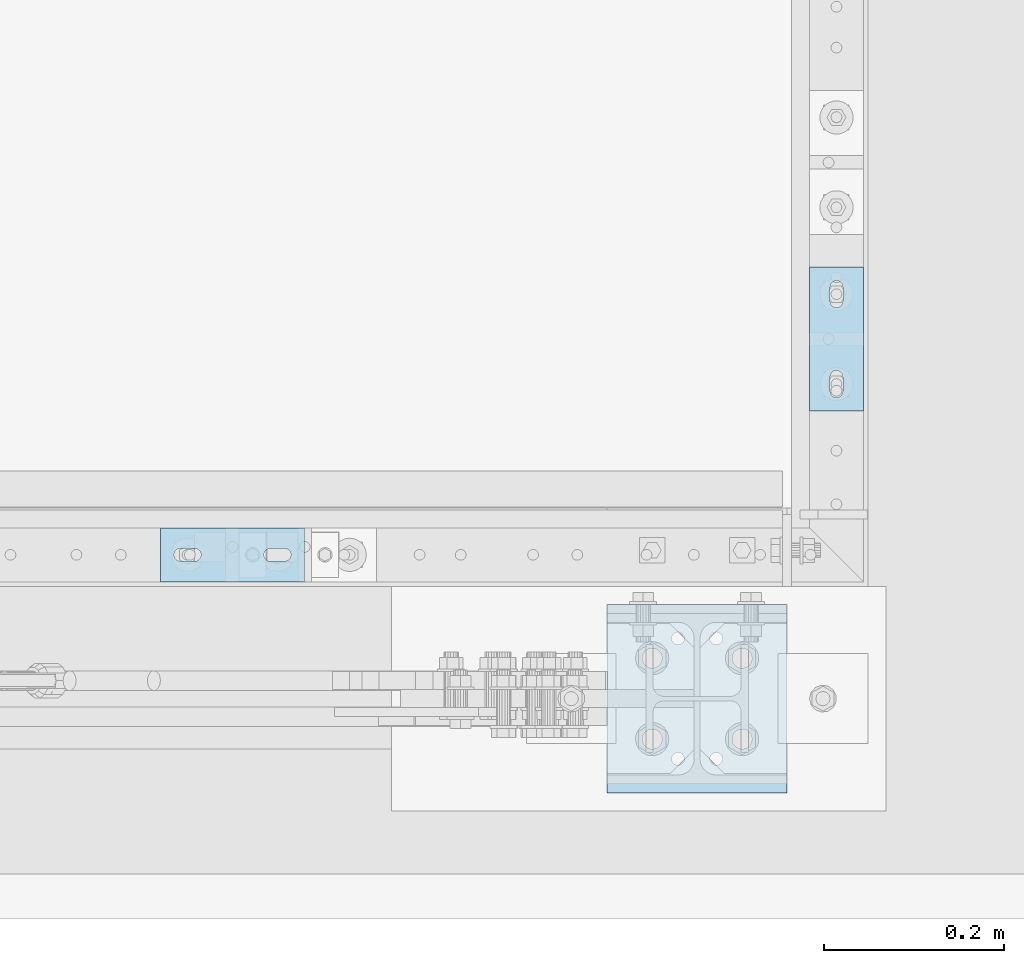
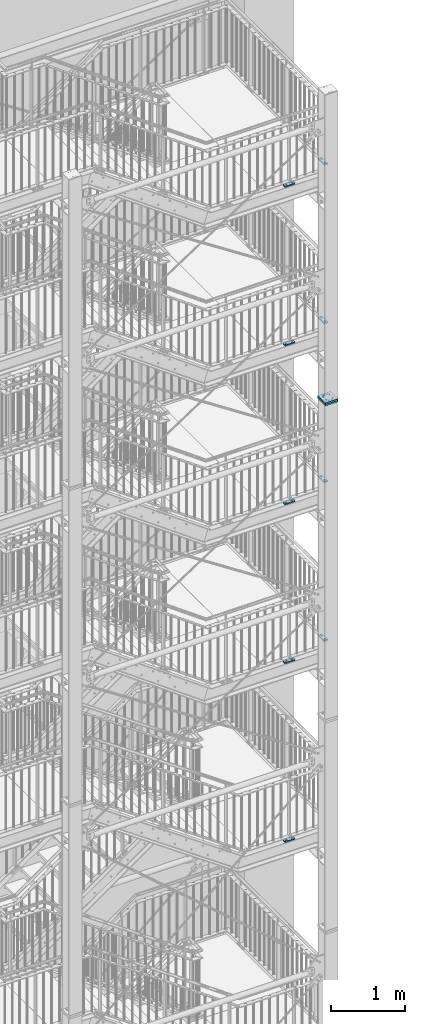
# One storey, part 196 of 825: 11 plates, 34 openings.
"""IFC2X3 building model written with IfcOpenShell, lengths in millimetres."""

from ifc_helpers import new_model, entity, si_unit, converted_unit, point, frame, frame_2d, origin, origin_with_axes, origin_2d_with_axis, place, context, project, spatial, polyline, circle_curve, line_curve, trimmed, segment, composite_curve, circle, outline, extrude, material, layer, layer_set, element, save


model = new_model("IFC2X3")

# Units and contexts
model_context = context("Model", 3, precision=1e-09, world=origin_with_axes())
ifc_project = project(units=[si_unit("LENGTHUNIT", "METRE", prefix="MILLI"), si_unit("AREAUNIT", "SQUARE_METRE"), si_unit("VOLUMEUNIT", "CUBIC_METRE"), converted_unit("PLANEANGLEUNIT", "DEGREE", entity("IfcPlaneAngleMeasure", 0.01745329), si_unit("PLANEANGLEUNIT", "RADIAN"), dimensions=[0, 0, 0, 0, 0, 0, 0])], contexts=[model_context])

# Site, building, storey
site_placement = place(None, origin_with_axes())
site = spatial("IfcSite", under=ifc_project, at=site_placement, Name="Cnopf'sche Kinderklinik", CompositionType="ELEMENT")
building_placement = place(site_placement, origin_with_axes())
building = spatial("IfcBuilding", under=site, at=building_placement, Name="Struktur 1", CompositionType="ELEMENT")
storey_placement = place(building_placement, origin_with_axes())
storey = spatial("IfcBuildingStorey", under=building, at=storey_placement, Name="Default Storey", CompositionType="ELEMENT", Elevation=0.0)

# Plate, openings
ifc_material = material(Name="S235JR")
ifc_layer_1 = layer(ifc_material, 20.0)
ifc_layer_set_1 = layer_set([ifc_layer_1], Name="S235JR")
plate_1_placement = place(None, frame((8269.792260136, 4496.736971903, 5674.8947367), z_axis=(0.0, 0.0, 1.0), x_axis=(1.0, 0.0, 0.0)))
plate_1 = element("IfcPlate", 1, at=plate_1_placement, inside=storey, material=ifc_layer_set_1, Name="Plate#508", ObjectType="Plate#508", context=model_context, shape_type="SweptSolid", body=[
    extrude(outline(polyline([(0.0, 0.0), (160.0, 0.0), (160.0, 60.0), (0.0, 60.0), (0.0, 0.0)])), origin_with_axes(), (0.0, 0.0, 1.0), 20.0),
])
opening_1_placement = place(plate_1_placement, frame((38.0, 37.001, 20.5), z_axis=(0.0, 0.0, 1.0), x_axis=(-1.0, 0.0, 0.0)))
element("IfcOpeningElement", 2, at=opening_1_placement, cuts=plate_1, ObjectType="Opening", context=model_context, shape_type="SweptSolid", body=[
    extrude(outline(composite_curve([segment(trimmed(line_curve((0.0, 0.0), (1.0, 0.0), 16.0), [point((0.0, 0.0))], [point((16.0, 0.0))], True, "CARTESIAN"), True, "CONTINUOUS"), segment(trimmed(circle_curve(frame_2d((16.0, 7.001), x_axis=(1.0, 0.0)), 7.001), [point((16.0, 0.0))], [point((16.0, 14.002))], True, "CARTESIAN"), True, "CONTINUOUS"), segment(trimmed(line_curve((16.0, 14.002), (-1.0, 0.0), 16.0), [point((16.0, 14.002))], [point((0.0, 14.002))], True, "CARTESIAN"), True, "CONTINUOUS"), segment(trimmed(circle_curve(frame_2d((0.0, 7.001), x_axis=(1.0, 0.0)), 7.001), [point((0.0, 14.002))], [point((0.0, 0.0))], True, "CARTESIAN"), True, "CONTINUOUS")], self_intersect=False)), origin(), (0.0, 0.0, -1.0), 21.0),
])
opening_2_placement = place(plate_1_placement, frame((138.0, 37.001, 20.5), z_axis=(0.0, 0.0, 1.0), x_axis=(-1.0, 0.0, 0.0)))
element("IfcOpeningElement", 3, at=opening_2_placement, cuts=plate_1, ObjectType="Opening", context=model_context, shape_type="SweptSolid", body=[
    extrude(outline(composite_curve([segment(trimmed(line_curve((0.0, 0.0), (1.0, 0.0), 16.0), [point((0.0, 0.0))], [point((16.0, 0.0))], True, "CARTESIAN"), True, "CONTINUOUS"), segment(trimmed(circle_curve(frame_2d((16.0, 7.001), x_axis=(1.0, 0.0)), 7.001), [point((16.0, 0.0))], [point((16.0, 14.002))], True, "CARTESIAN"), True, "CONTINUOUS"), segment(trimmed(line_curve((16.0, 14.002), (-1.0, 0.0), 16.0), [point((16.0, 14.002))], [point((0.0, 14.002))], True, "CARTESIAN"), True, "CONTINUOUS"), segment(trimmed(circle_curve(frame_2d((0.0, 7.001), x_axis=(1.0, 0.0)), 7.001), [point((0.0, 14.002))], [point((0.0, 0.0))], True, "CARTESIAN"), True, "CONTINUOUS")], self_intersect=False)), origin(), (0.0, 0.0, -1.0), 21.0),
])

plate_2_placement = place(None, frame((9051.713402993, 4686.735971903, 8636.0), z_axis=(0.0, 0.0, 1.0), x_axis=(0.0, 1.0, 0.0)))
plate_2 = element("IfcPlate", 4, at=plate_2_placement, inside=storey, material=ifc_layer_set_1, Name="Plate#507", ObjectType="Plate#507", context=model_context, shape_type="SweptSolid", body=[
    extrude(outline(polyline([(0.0, 0.0), (160.0, 0.0), (160.0, 60.0), (0.0, 60.0), (0.0, 0.0)])), origin_with_axes(), (0.0, 0.0, 1.0), 20.0),
])
opening_3_placement = place(plate_2_placement, frame((38.0, 37.001, 20.5), z_axis=(0.0, 0.0, 1.0), x_axis=(-1.0, 0.0, 0.0)))
element("IfcOpeningElement", 5, at=opening_3_placement, cuts=plate_2, ObjectType="Opening", context=model_context, shape_type="SweptSolid", body=[
    extrude(outline(composite_curve([segment(trimmed(line_curve((0.0, 0.0), (1.0, 0.0), 16.0), [point((0.0, 0.0))], [point((16.0, 0.0))], True, "CARTESIAN"), True, "CONTINUOUS"), segment(trimmed(circle_curve(frame_2d((16.0, 7.001), x_axis=(1.0, 0.0)), 7.001), [point((16.0, 0.0))], [point((16.0, 14.002))], True, "CARTESIAN"), True, "CONTINUOUS"), segment(trimmed(line_curve((16.0, 14.002), (-1.0, 0.0), 16.0), [point((16.0, 14.002))], [point((0.0, 14.002))], True, "CARTESIAN"), True, "CONTINUOUS"), segment(trimmed(circle_curve(frame_2d((0.0, 7.001), x_axis=(1.0, 0.0)), 7.001), [point((0.0, 14.002))], [point((0.0, 0.0))], True, "CARTESIAN"), True, "CONTINUOUS")], self_intersect=False)), origin(), (0.0, 0.0, -1.0), 21.0),
])
opening_4_placement = place(plate_2_placement, frame((138.0, 37.001, 20.5), z_axis=(0.0, 0.0, 1.0), x_axis=(-1.0, 0.0, 0.0)))
element("IfcOpeningElement", 6, at=opening_4_placement, cuts=plate_2, ObjectType="Opening", context=model_context, shape_type="SweptSolid", body=[
    extrude(outline(composite_curve([segment(trimmed(line_curve((0.0, 0.0), (1.0, 0.0), 16.0), [point((0.0, 0.0))], [point((16.0, 0.0))], True, "CARTESIAN"), True, "CONTINUOUS"), segment(trimmed(circle_curve(frame_2d((16.0, 7.001), x_axis=(1.0, 0.0)), 7.001), [point((16.0, 0.0))], [point((16.0, 14.002))], True, "CARTESIAN"), True, "CONTINUOUS"), segment(trimmed(line_curve((16.0, 14.002), (-1.0, 0.0), 16.0), [point((16.0, 14.002))], [point((0.0, 14.002))], True, "CARTESIAN"), True, "CONTINUOUS"), segment(trimmed(circle_curve(frame_2d((0.0, 7.001), x_axis=(1.0, 0.0)), 7.001), [point((0.0, 14.002))], [point((0.0, 0.0))], True, "CARTESIAN"), True, "CONTINUOUS")], self_intersect=False)), origin(), (0.0, 0.0, -1.0), 21.0),
])

plate_3_placement = place(None, frame((8269.792260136, 4496.736971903, 8636.0), z_axis=(0.0, 0.0, 1.0), x_axis=(1.0, 0.0, 0.0)))
plate_3 = element("IfcPlate", 7, at=plate_3_placement, inside=storey, material=ifc_layer_set_1, Name="Plate#508", ObjectType="Plate#508", context=model_context, shape_type="SweptSolid", body=[
    extrude(outline(polyline([(0.0, 0.0), (160.0, 0.0), (160.0, 60.0), (0.0, 60.0), (0.0, 0.0)])), origin_with_axes(), (0.0, 0.0, 1.0), 20.0),
])
opening_5_placement = place(plate_3_placement, frame((38.0, 37.001, 20.5), z_axis=(0.0, 0.0, 1.0), x_axis=(-1.0, 0.0, 0.0)))
element("IfcOpeningElement", 8, at=opening_5_placement, cuts=plate_3, ObjectType="Opening", context=model_context, shape_type="SweptSolid", body=[
    extrude(outline(composite_curve([segment(trimmed(line_curve((0.0, 0.0), (1.0, 0.0), 16.0), [point((0.0, 0.0))], [point((16.0, 0.0))], True, "CARTESIAN"), True, "CONTINUOUS"), segment(trimmed(circle_curve(frame_2d((16.0, 7.001), x_axis=(1.0, 0.0)), 7.001), [point((16.0, 0.0))], [point((16.0, 14.002))], True, "CARTESIAN"), True, "CONTINUOUS"), segment(trimmed(line_curve((16.0, 14.002), (-1.0, 0.0), 16.0), [point((16.0, 14.002))], [point((0.0, 14.002))], True, "CARTESIAN"), True, "CONTINUOUS"), segment(trimmed(circle_curve(frame_2d((0.0, 7.001), x_axis=(1.0, 0.0)), 7.001), [point((0.0, 14.002))], [point((0.0, 0.0))], True, "CARTESIAN"), True, "CONTINUOUS")], self_intersect=False)), origin(), (0.0, 0.0, -1.0), 21.0),
])
opening_6_placement = place(plate_3_placement, frame((138.0, 37.001, 20.5), z_axis=(0.0, 0.0, 1.0), x_axis=(-1.0, 0.0, 0.0)))
element("IfcOpeningElement", 9, at=opening_6_placement, cuts=plate_3, ObjectType="Opening", context=model_context, shape_type="SweptSolid", body=[
    extrude(outline(composite_curve([segment(trimmed(line_curve((0.0, 0.0), (1.0, 0.0), 16.0), [point((0.0, 0.0))], [point((16.0, 0.0))], True, "CARTESIAN"), True, "CONTINUOUS"), segment(trimmed(circle_curve(frame_2d((16.0, 7.001), x_axis=(1.0, 0.0)), 7.001), [point((16.0, 0.0))], [point((16.0, 14.002))], True, "CARTESIAN"), True, "CONTINUOUS"), segment(trimmed(line_curve((16.0, 14.002), (-1.0, 0.0), 16.0), [point((16.0, 14.002))], [point((0.0, 14.002))], True, "CARTESIAN"), True, "CONTINUOUS"), segment(trimmed(circle_curve(frame_2d((0.0, 7.001), x_axis=(1.0, 0.0)), 7.001), [point((0.0, 14.002))], [point((0.0, 0.0))], True, "CARTESIAN"), True, "CONTINUOUS")], self_intersect=False)), origin(), (0.0, 0.0, -1.0), 21.0),
])

plate_4_placement = place(None, frame((9051.713402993, 4686.735971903, 11265.5000003), z_axis=(0.0, 0.0, 1.0), x_axis=(0.0, 1.0, 0.0)))
plate_4 = element("IfcPlate", 10, at=plate_4_placement, inside=storey, material=ifc_layer_set_1, Name="Plate#507", ObjectType="Plate#507", context=model_context, shape_type="SweptSolid", body=[
    extrude(outline(polyline([(0.0, 0.0), (160.0, 0.0), (160.0, 60.0), (0.0, 60.0), (0.0, 0.0)])), origin_with_axes(), (0.0, 0.0, 1.0), 20.0),
])
opening_7_placement = place(plate_4_placement, frame((38.0, 37.001, 20.5), z_axis=(0.0, 0.0, 1.0), x_axis=(-1.0, 0.0, 0.0)))
element("IfcOpeningElement", 11, at=opening_7_placement, cuts=plate_4, ObjectType="Opening", context=model_context, shape_type="SweptSolid", body=[
    extrude(outline(composite_curve([segment(trimmed(line_curve((0.0, 0.0), (1.0, 0.0), 16.0), [point((0.0, 0.0))], [point((16.0, 0.0))], True, "CARTESIAN"), True, "CONTINUOUS"), segment(trimmed(circle_curve(frame_2d((16.0, 7.001), x_axis=(1.0, 0.0)), 7.001), [point((16.0, 0.0))], [point((16.0, 14.002))], True, "CARTESIAN"), True, "CONTINUOUS"), segment(trimmed(line_curve((16.0, 14.002), (-1.0, 0.0), 16.0), [point((16.0, 14.002))], [point((0.0, 14.002))], True, "CARTESIAN"), True, "CONTINUOUS"), segment(trimmed(circle_curve(frame_2d((0.0, 7.001), x_axis=(1.0, 0.0)), 7.001), [point((0.0, 14.002))], [point((0.0, 0.0))], True, "CARTESIAN"), True, "CONTINUOUS")], self_intersect=False)), origin(), (0.0, 0.0, -1.0), 21.0),
])
opening_8_placement = place(plate_4_placement, frame((138.0, 37.001, 20.5), z_axis=(0.0, 0.0, 1.0), x_axis=(-1.0, 0.0, 0.0)))
element("IfcOpeningElement", 12, at=opening_8_placement, cuts=plate_4, ObjectType="Opening", context=model_context, shape_type="SweptSolid", body=[
    extrude(outline(composite_curve([segment(trimmed(line_curve((0.0, 0.0), (1.0, 0.0), 16.0), [point((0.0, 0.0))], [point((16.0, 0.0))], True, "CARTESIAN"), True, "CONTINUOUS"), segment(trimmed(circle_curve(frame_2d((16.0, 7.001), x_axis=(1.0, 0.0)), 7.001), [point((16.0, 0.0))], [point((16.0, 14.002))], True, "CARTESIAN"), True, "CONTINUOUS"), segment(trimmed(line_curve((16.0, 14.002), (-1.0, 0.0), 16.0), [point((16.0, 14.002))], [point((0.0, 14.002))], True, "CARTESIAN"), True, "CONTINUOUS"), segment(trimmed(circle_curve(frame_2d((0.0, 7.001), x_axis=(1.0, 0.0)), 7.001), [point((0.0, 14.002))], [point((0.0, 0.0))], True, "CARTESIAN"), True, "CONTINUOUS")], self_intersect=False)), origin(), (0.0, 0.0, -1.0), 21.0),
])

plate_5_placement = place(None, frame((8269.792260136, 4496.736971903, 11265.5000003), z_axis=(0.0, 0.0, 1.0), x_axis=(1.0, 0.0, 0.0)))
plate_5 = element("IfcPlate", 13, at=plate_5_placement, inside=storey, material=ifc_layer_set_1, Name="Plate#508", ObjectType="Plate#508", context=model_context, shape_type="SweptSolid", body=[
    extrude(outline(polyline([(0.0, 0.0), (160.0, 0.0), (160.0, 60.0), (0.0, 60.0), (0.0, 0.0)])), origin_with_axes(), (0.0, 0.0, 1.0), 20.0),
])
opening_9_placement = place(plate_5_placement, frame((38.0, 37.001, 20.5), z_axis=(0.0, 0.0, 1.0), x_axis=(-1.0, 0.0, 0.0)))
element("IfcOpeningElement", 14, at=opening_9_placement, cuts=plate_5, ObjectType="Opening", context=model_context, shape_type="SweptSolid", body=[
    extrude(outline(composite_curve([segment(trimmed(line_curve((0.0, 0.0), (1.0, 0.0), 16.0), [point((0.0, 0.0))], [point((16.0, 0.0))], True, "CARTESIAN"), True, "CONTINUOUS"), segment(trimmed(circle_curve(frame_2d((16.0, 7.001), x_axis=(1.0, 0.0)), 7.001), [point((16.0, 0.0))], [point((16.0, 14.002))], True, "CARTESIAN"), True, "CONTINUOUS"), segment(trimmed(line_curve((16.0, 14.002), (-1.0, 0.0), 16.0), [point((16.0, 14.002))], [point((0.0, 14.002))], True, "CARTESIAN"), True, "CONTINUOUS"), segment(trimmed(circle_curve(frame_2d((0.0, 7.001), x_axis=(1.0, 0.0)), 7.001), [point((0.0, 14.002))], [point((0.0, 0.0))], True, "CARTESIAN"), True, "CONTINUOUS")], self_intersect=False)), origin(), (0.0, 0.0, -1.0), 21.0),
])
opening_10_placement = place(plate_5_placement, frame((138.0, 37.001, 20.5), z_axis=(0.0, 0.0, 1.0), x_axis=(-1.0, 0.0, 0.0)))
element("IfcOpeningElement", 15, at=opening_10_placement, cuts=plate_5, ObjectType="Opening", context=model_context, shape_type="SweptSolid", body=[
    extrude(outline(composite_curve([segment(trimmed(line_curve((0.0, 0.0), (1.0, 0.0), 16.0), [point((0.0, 0.0))], [point((16.0, 0.0))], True, "CARTESIAN"), True, "CONTINUOUS"), segment(trimmed(circle_curve(frame_2d((16.0, 7.001), x_axis=(1.0, 0.0)), 7.001), [point((16.0, 0.0))], [point((16.0, 14.002))], True, "CARTESIAN"), True, "CONTINUOUS"), segment(trimmed(line_curve((16.0, 14.002), (-1.0, 0.0), 16.0), [point((16.0, 14.002))], [point((0.0, 14.002))], True, "CARTESIAN"), True, "CONTINUOUS"), segment(trimmed(circle_curve(frame_2d((0.0, 7.001), x_axis=(1.0, 0.0)), 7.001), [point((0.0, 14.002))], [point((0.0, 0.0))], True, "CARTESIAN"), True, "CONTINUOUS")], self_intersect=False)), origin(), (0.0, 0.0, -1.0), 21.0),
])

plate_6_placement = place(None, frame((9051.713402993, 4686.735971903, 13896.5000001), z_axis=(0.0, 0.0, 1.0), x_axis=(0.0, 1.0, 0.0)))
plate_6 = element("IfcPlate", 16, at=plate_6_placement, inside=storey, material=ifc_layer_set_1, Name="Plate#507", ObjectType="Plate#507", context=model_context, shape_type="SweptSolid", body=[
    extrude(outline(polyline([(0.0, 0.0), (160.0, 0.0), (160.0, 60.0), (0.0, 60.0), (0.0, 0.0)])), origin_with_axes(), (0.0, 0.0, 1.0), 20.0),
])
opening_11_placement = place(plate_6_placement, frame((38.0, 37.001, 20.5), z_axis=(0.0, 0.0, 1.0), x_axis=(-1.0, 0.0, 0.0)))
element("IfcOpeningElement", 17, at=opening_11_placement, cuts=plate_6, ObjectType="Opening", context=model_context, shape_type="SweptSolid", body=[
    extrude(outline(composite_curve([segment(trimmed(line_curve((0.0, 0.0), (1.0, 0.0), 16.0), [point((0.0, 0.0))], [point((16.0, 0.0))], True, "CARTESIAN"), True, "CONTINUOUS"), segment(trimmed(circle_curve(frame_2d((16.0, 7.001), x_axis=(1.0, 0.0)), 7.001), [point((16.0, 0.0))], [point((16.0, 14.002))], True, "CARTESIAN"), True, "CONTINUOUS"), segment(trimmed(line_curve((16.0, 14.002), (-1.0, 0.0), 16.0), [point((16.0, 14.002))], [point((0.0, 14.002))], True, "CARTESIAN"), True, "CONTINUOUS"), segment(trimmed(circle_curve(frame_2d((0.0, 7.001), x_axis=(1.0, 0.0)), 7.001), [point((0.0, 14.002))], [point((0.0, 0.0))], True, "CARTESIAN"), True, "CONTINUOUS")], self_intersect=False)), origin(), (0.0, 0.0, -1.0), 21.0),
])
opening_12_placement = place(plate_6_placement, frame((138.0, 37.001, 20.5), z_axis=(0.0, 0.0, 1.0), x_axis=(-1.0, 0.0, 0.0)))
element("IfcOpeningElement", 18, at=opening_12_placement, cuts=plate_6, ObjectType="Opening", context=model_context, shape_type="SweptSolid", body=[
    extrude(outline(composite_curve([segment(trimmed(line_curve((0.0, 0.0), (1.0, 0.0), 16.0), [point((0.0, 0.0))], [point((16.0, 0.0))], True, "CARTESIAN"), True, "CONTINUOUS"), segment(trimmed(circle_curve(frame_2d((16.0, 7.001), x_axis=(1.0, 0.0)), 7.001), [point((16.0, 0.0))], [point((16.0, 14.002))], True, "CARTESIAN"), True, "CONTINUOUS"), segment(trimmed(line_curve((16.0, 14.002), (-1.0, 0.0), 16.0), [point((16.0, 14.002))], [point((0.0, 14.002))], True, "CARTESIAN"), True, "CONTINUOUS"), segment(trimmed(circle_curve(frame_2d((0.0, 7.001), x_axis=(1.0, 0.0)), 7.001), [point((0.0, 14.002))], [point((0.0, 0.0))], True, "CARTESIAN"), True, "CONTINUOUS")], self_intersect=False)), origin(), (0.0, 0.0, -1.0), 21.0),
])

plate_7_placement = place(None, frame((8269.792260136, 4496.736971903, 13896.5000001), z_axis=(0.0, 0.0, 1.0), x_axis=(1.0, 0.0, 0.0)))
plate_7 = element("IfcPlate", 19, at=plate_7_placement, inside=storey, material=ifc_layer_set_1, Name="Plate#508", ObjectType="Plate#508", context=model_context, shape_type="SweptSolid", body=[
    extrude(outline(polyline([(0.0, 0.0), (160.0, 0.0), (160.0, 60.0), (0.0, 60.0), (0.0, 0.0)])), origin_with_axes(), (0.0, 0.0, 1.0), 20.0),
])
opening_13_placement = place(plate_7_placement, frame((38.0, 37.001, 20.5), z_axis=(0.0, 0.0, 1.0), x_axis=(-1.0, 0.0, 0.0)))
element("IfcOpeningElement", 20, at=opening_13_placement, cuts=plate_7, ObjectType="Opening", context=model_context, shape_type="SweptSolid", body=[
    extrude(outline(composite_curve([segment(trimmed(line_curve((0.0, 0.0), (1.0, 0.0), 16.0), [point((0.0, 0.0))], [point((16.0, 0.0))], True, "CARTESIAN"), True, "CONTINUOUS"), segment(trimmed(circle_curve(frame_2d((16.0, 7.001), x_axis=(1.0, 0.0)), 7.001), [point((16.0, 0.0))], [point((16.0, 14.002))], True, "CARTESIAN"), True, "CONTINUOUS"), segment(trimmed(line_curve((16.0, 14.002), (-1.0, 0.0), 16.0), [point((16.0, 14.002))], [point((0.0, 14.002))], True, "CARTESIAN"), True, "CONTINUOUS"), segment(trimmed(circle_curve(frame_2d((0.0, 7.001), x_axis=(1.0, 0.0)), 7.001), [point((0.0, 14.002))], [point((0.0, 0.0))], True, "CARTESIAN"), True, "CONTINUOUS")], self_intersect=False)), origin(), (0.0, 0.0, -1.0), 21.0),
])
opening_14_placement = place(plate_7_placement, frame((138.0, 37.001, 20.5), z_axis=(0.0, 0.0, 1.0), x_axis=(-1.0, 0.0, 0.0)))
element("IfcOpeningElement", 21, at=opening_14_placement, cuts=plate_7, ObjectType="Opening", context=model_context, shape_type="SweptSolid", body=[
    extrude(outline(composite_curve([segment(trimmed(line_curve((0.0, 0.0), (1.0, 0.0), 16.0), [point((0.0, 0.0))], [point((16.0, 0.0))], True, "CARTESIAN"), True, "CONTINUOUS"), segment(trimmed(circle_curve(frame_2d((16.0, 7.001), x_axis=(1.0, 0.0)), 7.001), [point((16.0, 0.0))], [point((16.0, 14.002))], True, "CARTESIAN"), True, "CONTINUOUS"), segment(trimmed(line_curve((16.0, 14.002), (-1.0, 0.0), 16.0), [point((16.0, 14.002))], [point((0.0, 14.002))], True, "CARTESIAN"), True, "CONTINUOUS"), segment(trimmed(circle_curve(frame_2d((0.0, 7.001), x_axis=(1.0, 0.0)), 7.001), [point((0.0, 14.002))], [point((0.0, 0.0))], True, "CARTESIAN"), True, "CONTINUOUS")], self_intersect=False)), origin(), (0.0, 0.0, -1.0), 21.0),
])

plate_8_placement = place(None, frame((9051.713402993, 4686.735971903, 16524.0000003), z_axis=(0.0, 0.0, 1.0), x_axis=(0.0, 1.0, 0.0)))
plate_8 = element("IfcPlate", 22, at=plate_8_placement, inside=storey, material=ifc_layer_set_1, Name="Plate#507", ObjectType="Plate#507", context=model_context, shape_type="SweptSolid", body=[
    extrude(outline(polyline([(0.0, 0.0), (160.0, 0.0), (160.0, 60.0), (0.0, 60.0), (0.0, 0.0)])), origin_with_axes(), (0.0, 0.0, 1.0), 20.0),
])
opening_15_placement = place(plate_8_placement, frame((38.0, 37.001, 20.5), z_axis=(0.0, 0.0, 1.0), x_axis=(-1.0, 0.0, 0.0)))
element("IfcOpeningElement", 23, at=opening_15_placement, cuts=plate_8, ObjectType="Opening", context=model_context, shape_type="SweptSolid", body=[
    extrude(outline(composite_curve([segment(trimmed(line_curve((0.0, 0.0), (1.0, 0.0), 16.0), [point((0.0, 0.0))], [point((16.0, 0.0))], True, "CARTESIAN"), True, "CONTINUOUS"), segment(trimmed(circle_curve(frame_2d((16.0, 7.001), x_axis=(1.0, 0.0)), 7.001), [point((16.0, 0.0))], [point((16.0, 14.002))], True, "CARTESIAN"), True, "CONTINUOUS"), segment(trimmed(line_curve((16.0, 14.002), (-1.0, 0.0), 16.0), [point((16.0, 14.002))], [point((0.0, 14.002))], True, "CARTESIAN"), True, "CONTINUOUS"), segment(trimmed(circle_curve(frame_2d((0.0, 7.001), x_axis=(1.0, 0.0)), 7.001), [point((0.0, 14.002))], [point((0.0, 0.0))], True, "CARTESIAN"), True, "CONTINUOUS")], self_intersect=False)), origin(), (0.0, 0.0, -1.0), 21.0),
])
opening_16_placement = place(plate_8_placement, frame((138.0, 37.001, 20.5), z_axis=(0.0, 0.0, 1.0), x_axis=(-1.0, 0.0, 0.0)))
element("IfcOpeningElement", 24, at=opening_16_placement, cuts=plate_8, ObjectType="Opening", context=model_context, shape_type="SweptSolid", body=[
    extrude(outline(composite_curve([segment(trimmed(line_curve((0.0, 0.0), (1.0, 0.0), 16.0), [point((0.0, 0.0))], [point((16.0, 0.0))], True, "CARTESIAN"), True, "CONTINUOUS"), segment(trimmed(circle_curve(frame_2d((16.0, 7.001), x_axis=(1.0, 0.0)), 7.001), [point((16.0, 0.0))], [point((16.0, 14.002))], True, "CARTESIAN"), True, "CONTINUOUS"), segment(trimmed(line_curve((16.0, 14.002), (-1.0, 0.0), 16.0), [point((16.0, 14.002))], [point((0.0, 14.002))], True, "CARTESIAN"), True, "CONTINUOUS"), segment(trimmed(circle_curve(frame_2d((0.0, 7.001), x_axis=(1.0, 0.0)), 7.001), [point((0.0, 14.002))], [point((0.0, 0.0))], True, "CARTESIAN"), True, "CONTINUOUS")], self_intersect=False)), origin(), (0.0, 0.0, -1.0), 21.0),
])

plate_9_placement = place(None, frame((8269.792260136, 4496.736971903, 16524.0000003), z_axis=(0.0, 0.0, 1.0), x_axis=(1.0, 0.0, 0.0)))
plate_9 = element("IfcPlate", 25, at=plate_9_placement, inside=storey, material=ifc_layer_set_1, Name="Plate#508", ObjectType="Plate#508", context=model_context, shape_type="SweptSolid", body=[
    extrude(outline(polyline([(0.0, 0.0), (160.0, 0.0), (160.0, 60.0), (0.0, 60.0), (0.0, 0.0)])), origin_with_axes(), (0.0, 0.0, 1.0), 20.0),
])
opening_17_placement = place(plate_9_placement, frame((38.0, 37.001, 20.5), z_axis=(0.0, 0.0, 1.0), x_axis=(-1.0, 0.0, 0.0)))
element("IfcOpeningElement", 26, at=opening_17_placement, cuts=plate_9, ObjectType="Opening", context=model_context, shape_type="SweptSolid", body=[
    extrude(outline(composite_curve([segment(trimmed(line_curve((0.0, 0.0), (1.0, 0.0), 16.0), [point((0.0, 0.0))], [point((16.0, 0.0))], True, "CARTESIAN"), True, "CONTINUOUS"), segment(trimmed(circle_curve(frame_2d((16.0, 7.001), x_axis=(1.0, 0.0)), 7.001), [point((16.0, 0.0))], [point((16.0, 14.002))], True, "CARTESIAN"), True, "CONTINUOUS"), segment(trimmed(line_curve((16.0, 14.002), (-1.0, 0.0), 16.0), [point((16.0, 14.002))], [point((0.0, 14.002))], True, "CARTESIAN"), True, "CONTINUOUS"), segment(trimmed(circle_curve(frame_2d((0.0, 7.001), x_axis=(1.0, 0.0)), 7.001), [point((0.0, 14.002))], [point((0.0, 0.0))], True, "CARTESIAN"), True, "CONTINUOUS")], self_intersect=False)), origin(), (0.0, 0.0, -1.0), 21.0),
])
opening_18_placement = place(plate_9_placement, frame((138.0, 37.001, 20.5), z_axis=(0.0, 0.0, 1.0), x_axis=(-1.0, 0.0, 0.0)))
element("IfcOpeningElement", 27, at=opening_18_placement, cuts=plate_9, ObjectType="Opening", context=model_context, shape_type="SweptSolid", body=[
    extrude(outline(composite_curve([segment(trimmed(line_curve((0.0, 0.0), (1.0, 0.0), 16.0), [point((0.0, 0.0))], [point((16.0, 0.0))], True, "CARTESIAN"), True, "CONTINUOUS"), segment(trimmed(circle_curve(frame_2d((16.0, 7.001), x_axis=(1.0, 0.0)), 7.001), [point((16.0, 0.0))], [point((16.0, 14.002))], True, "CARTESIAN"), True, "CONTINUOUS"), segment(trimmed(line_curve((16.0, 14.002), (-1.0, 0.0), 16.0), [point((16.0, 14.002))], [point((0.0, 14.002))], True, "CARTESIAN"), True, "CONTINUOUS"), segment(trimmed(circle_curve(frame_2d((0.0, 7.001), x_axis=(1.0, 0.0)), 7.001), [point((0.0, 14.002))], [point((0.0, 0.0))], True, "CARTESIAN"), True, "CONTINUOUS")], self_intersect=False)), origin(), (0.0, 0.0, -1.0), 21.0),
])

ifc_layer_2 = layer(ifc_material, 25.0)
ifc_layer_set_2 = layer_set([ifc_layer_2], Name="S235JR")
plate_10_placement = place(None, frame((8866.713402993, 4366.736971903, 12900.0), z_axis=(0.0, 0.0, -1.0), x_axis=(0.0, -1.0, 0.0)))
plate_10 = element("IfcPlate", 28, at=plate_10_placement, inside=storey, material=ifc_layer_set_2, Name="Endplate#1", ObjectType="Endplate#1", context=model_context, shape_type="SweptSolid", body=[
    extrude(outline(polyline([(-105.0, -100.0), (105.0, -100.0), (105.0, 100.0), (-105.0, 100.0), (-105.0, -100.0)])), origin_with_axes(), (0.0, 0.0, 1.0), 25.0),
])
opening_19_placement = place(plate_10_placement, frame((67.0, 21.25, -0.5), z_axis=(0.0, 0.0, 1.0), x_axis=(1.0, 0.0, 0.0)))
element("IfcOpeningElement", 29, at=opening_19_placement, cuts=plate_10, ObjectType="Opening", context=model_context, shape_type="SweptSolid", body=[
    extrude(circle(Radius=7.001, at=origin_2d_with_axis()), origin(), (0.0, 0.0, 1.0), 26.0),
])
opening_20_placement = place(plate_10_placement, frame((-67.0, 21.25, -0.5), z_axis=(0.0, 0.0, 1.0), x_axis=(1.0, 0.0, 0.0)))
element("IfcOpeningElement", 30, at=opening_20_placement, cuts=plate_10, ObjectType="Opening", context=model_context, shape_type="SweptSolid", body=[
    extrude(circle(Radius=7.001, at=origin_2d_with_axis()), origin(), (0.0, 0.0, 1.0), 26.0),
])
opening_21_placement = place(plate_10_placement, frame((-67.0, -21.25, -0.5), z_axis=(0.0, 0.0, 1.0), x_axis=(1.0, 0.0, 0.0)))
element("IfcOpeningElement", 31, at=opening_21_placement, cuts=plate_10, ObjectType="Opening", context=model_context, shape_type="SweptSolid", body=[
    extrude(circle(Radius=7.001, at=origin_2d_with_axis()), origin(), (0.0, 0.0, 1.0), 26.0),
])
opening_22_placement = place(plate_10_placement, frame((67.0, -21.25, -0.5), z_axis=(0.0, 0.0, 1.0), x_axis=(1.0, 0.0, 0.0)))
element("IfcOpeningElement", 32, at=opening_22_placement, cuts=plate_10, ObjectType="Opening", context=model_context, shape_type="SweptSolid", body=[
    extrude(circle(Radius=7.001, at=origin_2d_with_axis()), origin(), (0.0, 0.0, 1.0), 26.0),
])
opening_23_placement = place(plate_10_placement, frame((45.0, -38.999, 25.5), z_axis=(0.0, 0.0, 1.0), x_axis=(1.0, 0.0, 0.0)))
element("IfcOpeningElement", 33, at=opening_23_placement, cuts=plate_10, ObjectType="Opening", context=model_context, shape_type="SweptSolid", body=[
    extrude(circle(Radius=11.001, at=frame_2d((0.0, -11.001), x_axis=(1.0, 0.0))), origin(), (0.0, 0.0, -1.0), 26.0),
])
opening_24_placement = place(plate_10_placement, frame((-45.0, -38.999, 25.5), z_axis=(0.0, 0.0, 1.0), x_axis=(1.0, 0.0, 0.0)))
element("IfcOpeningElement", 34, at=opening_24_placement, cuts=plate_10, ObjectType="Opening", context=model_context, shape_type="SweptSolid", body=[
    extrude(circle(Radius=11.001, at=frame_2d((0.0, -11.001), x_axis=(1.0, 0.0))), origin(), (0.0, 0.0, -1.0), 26.0),
])
opening_25_placement = place(plate_10_placement, frame((45.0, 61.001, 25.5), z_axis=(0.0, 0.0, 1.0), x_axis=(1.0, 0.0, 0.0)))
element("IfcOpeningElement", 35, at=opening_25_placement, cuts=plate_10, ObjectType="Opening", context=model_context, shape_type="SweptSolid", body=[
    extrude(circle(Radius=11.001, at=frame_2d((0.0, -11.001), x_axis=(1.0, 0.0))), origin(), (0.0, 0.0, -1.0), 26.0),
])
opening_26_placement = place(plate_10_placement, frame((-45.0, 61.001, 25.5), z_axis=(0.0, 0.0, 1.0), x_axis=(1.0, 0.0, 0.0)))
element("IfcOpeningElement", 36, at=opening_26_placement, cuts=plate_10, ObjectType="Opening", context=model_context, shape_type="SweptSolid", body=[
    extrude(circle(Radius=11.001, at=frame_2d((0.0, -11.001), x_axis=(1.0, 0.0))), origin(), (0.0, 0.0, -1.0), 26.0),
])

plate_11_placement = place(None, frame((8866.713402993, 4366.736971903, 12925.0), z_axis=(0.0, 0.0, -1.0), x_axis=(0.0, -1.0, 0.0)))
plate_11 = element("IfcPlate", 37, at=plate_11_placement, inside=storey, material=ifc_layer_set_2, Name="Endplate#2", ObjectType="Endplate#2", context=model_context, shape_type="SweptSolid", body=[
    extrude(outline(polyline([(-105.0, -100.0), (105.0, -100.0), (105.0, 100.0), (-105.0, 100.0), (-105.0, -100.0)])), origin_with_axes(), (0.0, 0.0, 1.0), 25.0),
])
opening_27_placement = place(plate_11_placement, frame((67.0, 21.25, 25.5), z_axis=(0.0, 0.0, -1.0), x_axis=(-1.0, 0.0, 0.0)))
element("IfcOpeningElement", 38, at=opening_27_placement, cuts=plate_11, ObjectType="Opening", context=model_context, shape_type="SweptSolid", body=[
    extrude(circle(Radius=7.001, at=origin_2d_with_axis()), origin(), (0.0, 0.0, 1.0), 26.0),
])
opening_28_placement = place(plate_11_placement, frame((-67.0, 21.25, 25.5), z_axis=(0.0, 0.0, -1.0), x_axis=(-1.0, 0.0, 0.0)))
element("IfcOpeningElement", 39, at=opening_28_placement, cuts=plate_11, ObjectType="Opening", context=model_context, shape_type="SweptSolid", body=[
    extrude(circle(Radius=7.001, at=origin_2d_with_axis()), origin(), (0.0, 0.0, 1.0), 26.0),
])
opening_29_placement = place(plate_11_placement, frame((-67.0, -21.25, 25.5), z_axis=(0.0, 0.0, -1.0), x_axis=(-1.0, 0.0, 0.0)))
element("IfcOpeningElement", 40, at=opening_29_placement, cuts=plate_11, ObjectType="Opening", context=model_context, shape_type="SweptSolid", body=[
    extrude(circle(Radius=7.001, at=origin_2d_with_axis()), origin(), (0.0, 0.0, 1.0), 26.0),
])
opening_30_placement = place(plate_11_placement, frame((67.0, -21.25, 25.5), z_axis=(0.0, 0.0, -1.0), x_axis=(-1.0, 0.0, 0.0)))
element("IfcOpeningElement", 41, at=opening_30_placement, cuts=plate_11, ObjectType="Opening", context=model_context, shape_type="SweptSolid", body=[
    extrude(circle(Radius=7.001, at=origin_2d_with_axis()), origin(), (0.0, 0.0, 1.0), 26.0),
])
opening_31_placement = place(plate_11_placement, frame((45.0, -38.999, 25.5), z_axis=(0.0, 0.0, 1.0), x_axis=(1.0, 0.0, 0.0)))
element("IfcOpeningElement", 42, at=opening_31_placement, cuts=plate_11, ObjectType="Opening", context=model_context, shape_type="SweptSolid", body=[
    extrude(circle(Radius=11.001, at=frame_2d((0.0, -11.001), x_axis=(1.0, 0.0))), origin(), (0.0, 0.0, -1.0), 26.0),
])
opening_32_placement = place(plate_11_placement, frame((-45.0, -38.999, 25.5), z_axis=(0.0, 0.0, 1.0), x_axis=(1.0, 0.0, 0.0)))
element("IfcOpeningElement", 43, at=opening_32_placement, cuts=plate_11, ObjectType="Opening", context=model_context, shape_type="SweptSolid", body=[
    extrude(circle(Radius=11.001, at=frame_2d((0.0, -11.001), x_axis=(1.0, 0.0))), origin(), (0.0, 0.0, -1.0), 26.0),
])
opening_33_placement = place(plate_11_placement, frame((45.0, 61.001, 25.5), z_axis=(0.0, 0.0, 1.0), x_axis=(1.0, 0.0, 0.0)))
element("IfcOpeningElement", 44, at=opening_33_placement, cuts=plate_11, ObjectType="Opening", context=model_context, shape_type="SweptSolid", body=[
    extrude(circle(Radius=11.001, at=frame_2d((0.0, -11.001), x_axis=(1.0, 0.0))), origin(), (0.0, 0.0, -1.0), 26.0),
])
opening_34_placement = place(plate_11_placement, frame((-45.0, 61.001, 25.5), z_axis=(0.0, 0.0, 1.0), x_axis=(1.0, 0.0, 0.0)))
element("IfcOpeningElement", 45, at=opening_34_placement, cuts=plate_11, ObjectType="Opening", context=model_context, shape_type="SweptSolid", body=[
    extrude(circle(Radius=11.001, at=frame_2d((0.0, -11.001), x_axis=(1.0, 0.0))), origin(), (0.0, 0.0, -1.0), 26.0),
])

save(model, "model.ifc")
